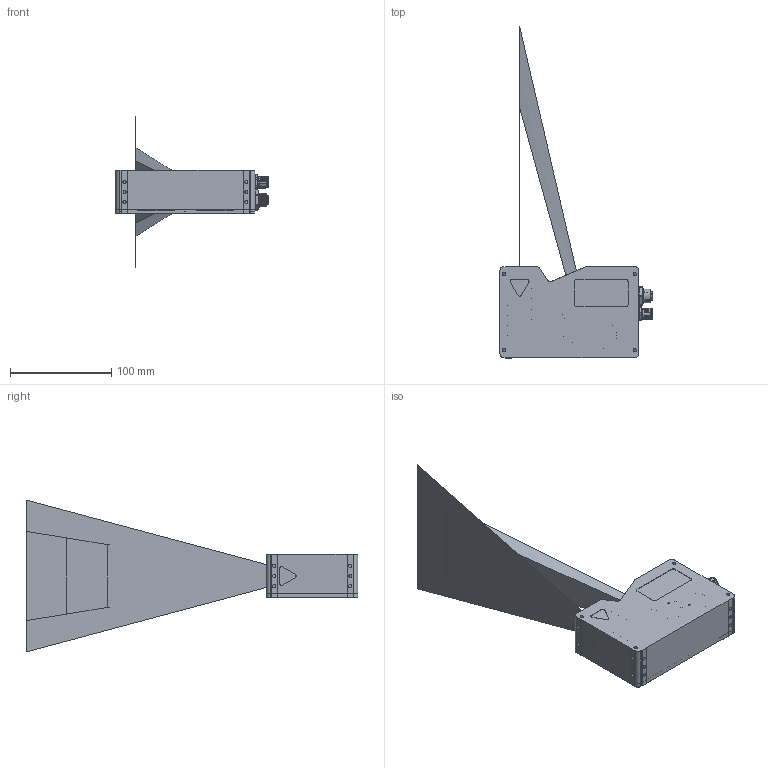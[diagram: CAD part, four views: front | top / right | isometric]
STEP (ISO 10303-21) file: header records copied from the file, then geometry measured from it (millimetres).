
FILE_DESCRIPTION(/* description */ (''),/* implementation_level */ '2;1');
FILE_NAME(/* name */ 'C6-S7-1280-CS-14-76-197-SX-1G-XXX-XX_Public.iam.stp',/* time_stamp */ '2025-06-02T15:12:30+02:00',/* author */ ('AT'),/* organization */ ('Automation Technology GmbH'),/* preprocessor_version */ 'ST-DEVELOPER v20',/* originating_system */ 'Autodesk Inventor 2024',/* authorisation */ '');
FILE_SCHEMA (('AUTOMOTIVE_DESIGN { 1 0 10303 214 3 1 1 }'));
Products named in the file (20): C6-S7-1280-CS-14-76-197-SX-1G-XXX-XX_Public; Screw GB/T 2672 M2,5 x 4; Screw GB/T 2672 M2,5 x 6; 202202010-028; 202202010-002; 202202010-009; 202202010-010; EO: 48-924; Glasscheibe33x1; C6-S7-1280-CS-14-76-197-SX-1G-XXX-XX_Strahlengang; 1292.6001; SACC-DSI-FS-8CON-L180_SCO SH_1553860-01; SACC-DSI-FS-8CON-L180_SCO SH_1553860_Stecker; SACC-DSI-FS-8CON-L180_SCO SH_1553860_Mutter; SACC-DSI-FS-8CON-L180_SCO SH_1553860_Kunststoffeinsatz; SACC-DSI-MS-17CON-M12 SCO SH_1437119-01; SACC-DSI-MS-17CON-M12 SCO SH_1437119_Stecker; SACC-DSI-MS-17CON-M12 SCO SH_1437119_Mutter; SACC-DSI-MS-17CON-M12 SCO SH_1437119_Pins; SACC-DSI-MS-17CON-M12 SCO SH_1437119_Kunststoffeinsatz
Assembly tree (36 placements, depth 3):
  C6-S7-1280-CS-14-76-197-SX-1G-XXX-XX_Public
    Screw GB/T 2672 M2,5 x 4  x8
    Screw GB/T 2672 M2,5 x 6  x7
    202202010-028
    202202010-002
    202202010-009
    202202010-010
    EO: 48-924
    Glasscheibe33x1
    C6-S7-1280-CS-14-76-197-SX-1G-XXX-XX_Strahlengang
    1292.6001  x5
    SACC-DSI-FS-8CON-L180_SCO SH_1553860-01
      SACC-DSI-FS-8CON-L180_SCO SH_1553860_Stecker
      SACC-DSI-FS-8CON-L180_SCO SH_1553860_Mutter
      SACC-DSI-FS-8CON-L180_SCO SH_1553860_Kunststoffeinsatz
    SACC-DSI-MS-17CON-M12 SCO SH_1437119-01
      SACC-DSI-MS-17CON-M12 SCO SH_1437119_Stecker
      SACC-DSI-MS-17CON-M12 SCO SH_1437119_Mutter
      SACC-DSI-MS-17CON-M12 SCO SH_1437119_Pins
      SACC-DSI-MS-17CON-M12 SCO SH_1437119_Kunststoffeinsatz
Bounding box: 150.15 x 327.1 x 149.62 mm (x, y, z)
Volume: 306038.9 mm3; surface area: 159923.1 mm2
Topology: 51 solids, 52 shells, 2268 faces, 5438 edges, 3385 vertices
Faces by surface type: cylinder 950, plane 880, bspline 181, cone 123, torus 85, sphere 49
Full cylindrical faces by diameter (mm): 0.217 x1, 0.6 x25, 0.63 x34, 0.9 x8, 1 x10, 1.1 x17, 1.2 x17, 1.5 x5, 1.567 x7, 1.6 x5, 2 x15, 2.013 x36, 2.208 x15, 2.4 x15, 2.5 x15, 2.6 x12, 2.8 x8, 3 x4, 3.242 x12, 5 x15, 5.5 x15, 7.7 x1, 8.25 x2, 8.3 x1, 8.7 x1, 10.5 x1, 10.7 x3, 10.917 x2, 12 x1, 12.2 x1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
Entity records: 86605 total; most frequent: CARTESIAN_POINT 45537, ORIENTED_EDGE 8184, DIRECTION 8085, EDGE_CURVE 4094, AXIS2_PLACEMENT_3D 2963, VERTEX_POINT 2702, LINE 2159, VECTOR 2159
